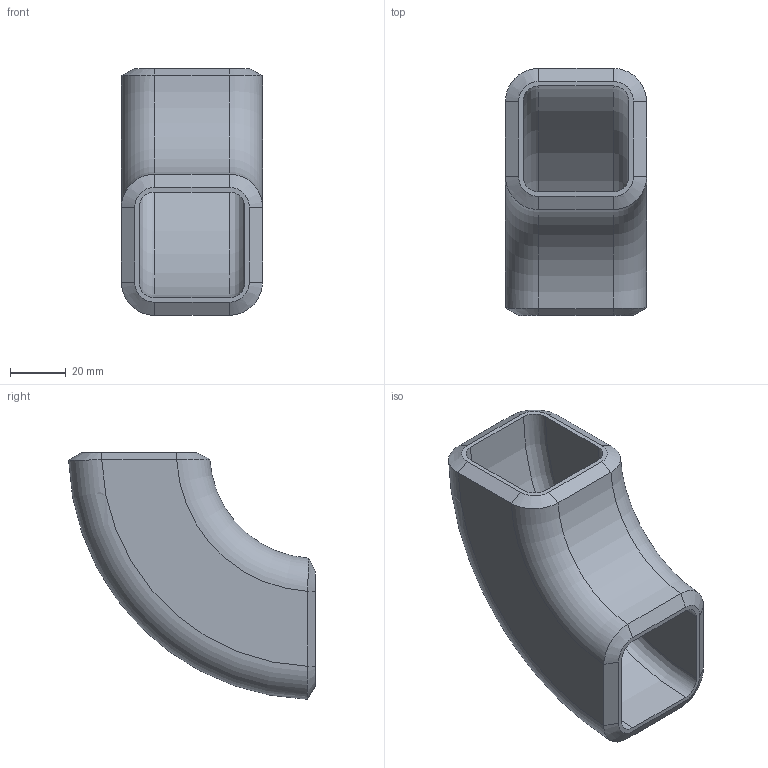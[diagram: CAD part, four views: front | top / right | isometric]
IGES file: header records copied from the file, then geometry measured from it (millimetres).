
Global section: file name: No Iges File Name specified; native system: Autodesk Inventor 2011; preprocessor: AutoDesk Inventor Iges Exporter R2011; author: bamfomg; date: 20110321.073217; units: inch
Bounding box: 50.8 x 88.86 x 88.85 mm (x, y, z)
Volume: 100968.1 mm3; surface area: 33817.9 mm2
Topology: 1 solids, 1 shells, 34 faces, 80 edges, 48 vertices
Faces by surface type: bspline 16, revolution 6, plane 6, torus 4, cylinder 2
